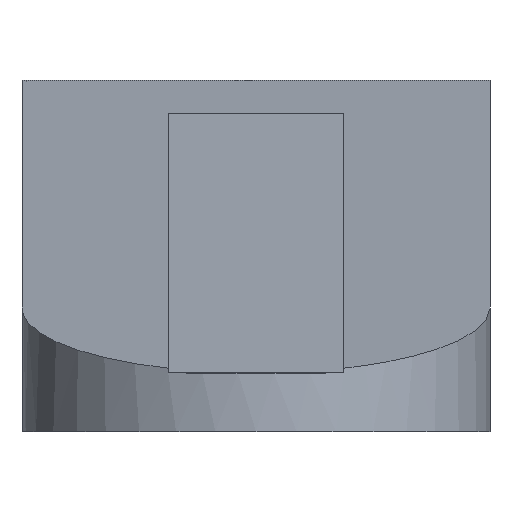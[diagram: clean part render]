
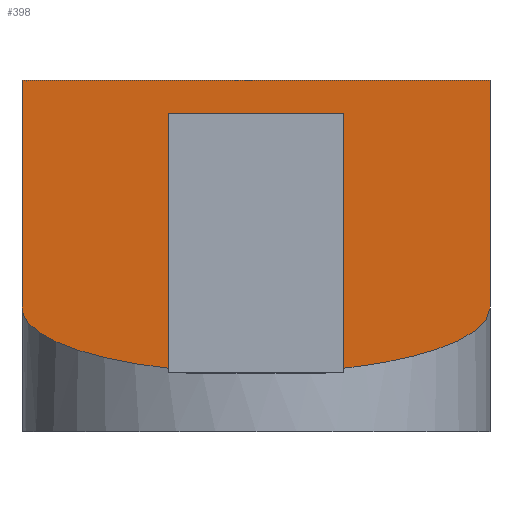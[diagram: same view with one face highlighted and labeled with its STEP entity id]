
A CAD part, front view. The second image highlights one B-rep face of the part: STEP entity #398.
In plain terms, the highlighted planar face has unit normal (0, -0.268, 0.964).
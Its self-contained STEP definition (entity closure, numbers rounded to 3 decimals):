
#104=ELLIPSE('',#408,4.151,4.);
#115=VERTEX_POINT('',#499);
#116=VERTEX_POINT('',#500);
#121=VERTEX_POINT('',#514);
#122=VERTEX_POINT('',#518);
#123=VERTEX_POINT('',#522);
#126=VERTEX_POINT('',#528);
#142=VERTEX_POINT('',#574);
#143=VERTEX_POINT('',#578);
#145=VECTOR('',#428,1.);
#151=VECTOR('',#438,1.);
#153=VECTOR('',#441,1.);
#175=VECTOR('',#486,1.);
#176=VECTOR('',#488,1.);
#177=VECTOR('',#489,1.);
#179=LINE('',#498,#145);
#185=LINE('',#513,#151);
#187=LINE('',#517,#153);
#209=LINE('',#575,#175);
#210=LINE('',#577,#176);
#211=LINE('',#579,#177);
#213=EDGE_CURVE('',#115,#116,#179,.T.);
#220=EDGE_CURVE('',#121,#115,#185,.T.);
#222=EDGE_CURVE('',#122,#121,#187,.T.);
#224=EDGE_CURVE('',#122,#123,#104,.T.);
#228=EDGE_CURVE('',#126,#116,#104,.T.);
#252=EDGE_CURVE('',#126,#142,#209,.T.);
#253=EDGE_CURVE('',#142,#143,#210,.T.);
#254=EDGE_CURVE('',#143,#123,#211,.T.);
#324=ORIENTED_EDGE('',*,*,#213,.T.);
#325=ORIENTED_EDGE('',*,*,#228,.F.);
#326=ORIENTED_EDGE('',*,*,#252,.T.);
#327=ORIENTED_EDGE('',*,*,#253,.T.);
#328=ORIENTED_EDGE('',*,*,#254,.T.);
#329=ORIENTED_EDGE('',*,*,#224,.F.);
#330=ORIENTED_EDGE('',*,*,#222,.T.);
#331=ORIENTED_EDGE('',*,*,#220,.T.);
#359=EDGE_LOOP('',(#324,#325,#326,#327,#328,#329,#330,#331));
#379=FACE_BOUND('',#359,.T.);
#398=ADVANCED_FACE('',(#379),#597,.T.);
#408=AXIS2_PLACEMENT_3D('',#521,#445,#446);
#422=AXIS2_PLACEMENT_3D('',#576,#487,$);
#428=DIRECTION('',(0.,-0.964,-0.268));
#438=DIRECTION('',(1.,0.,0.));
#441=DIRECTION('',(0.,0.964,0.268));
#445=DIRECTION('',(0.,0.268,-0.964));
#446=DIRECTION('',(0.,-4.,-1.111));
#486=DIRECTION('',(0.,0.964,0.268));
#487=DIRECTION('',(0.,-0.268,0.964));
#488=DIRECTION('',(-1.,0.,0.));
#489=DIRECTION('',(0.,-0.964,-0.268));
#498=CARTESIAN_POINT('',(1.5,-18.052,2.236));
#499=CARTESIAN_POINT('',(1.5,-6.5,5.444));
#500=CARTESIAN_POINT('',(1.5,-22.208,1.081));
#513=CARTESIAN_POINT('',(0.,-6.5,5.444));
#514=CARTESIAN_POINT('',(-1.5,-6.5,5.444));
#517=CARTESIAN_POINT('',(-1.5,-18.052,2.236));
#518=CARTESIAN_POINT('',(-1.5,-22.208,1.081));
#521=CARTESIAN_POINT('',(0.,-18.5,2.111));
#522=CARTESIAN_POINT('',(-4.,-18.5,2.111));
#528=CARTESIAN_POINT('',(4.,-18.5,2.111));
#574=CARTESIAN_POINT('',(4.,-4.5,6.));
#575=CARTESIAN_POINT('',(4.,-7.685,5.115));
#576=CARTESIAN_POINT('',(0.,-13.5,3.5));
#577=CARTESIAN_POINT('',(0.,-4.5,6.));
#578=CARTESIAN_POINT('',(-4.,-4.5,6.));
#579=CARTESIAN_POINT('',(-4.,-7.685,5.115));
#597=PLANE('',#422);
